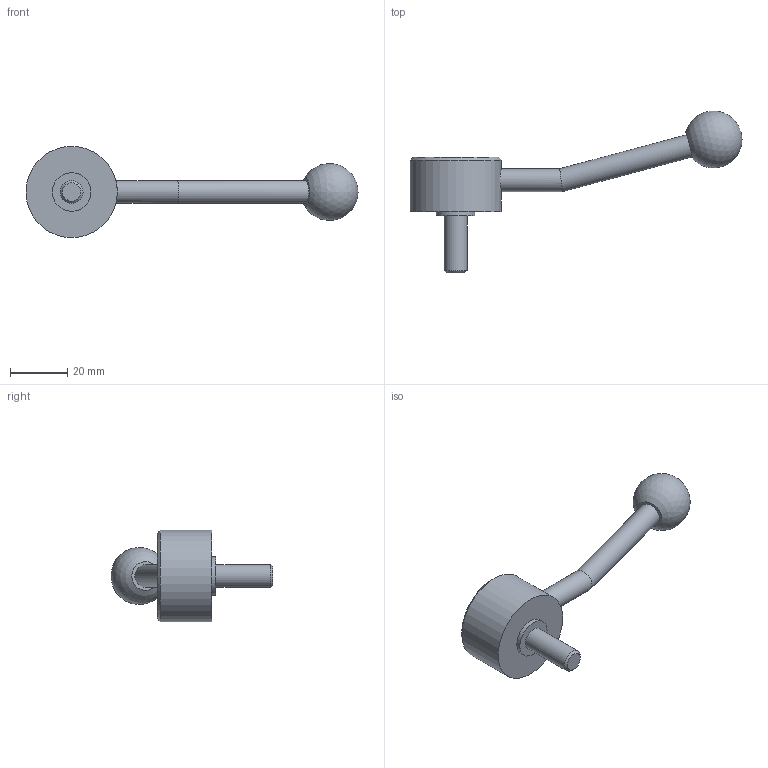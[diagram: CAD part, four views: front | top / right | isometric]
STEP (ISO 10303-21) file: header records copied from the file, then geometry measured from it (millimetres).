
FILE_DESCRIPTION( ( 'STEP AP203' ), '1' );
FILE_NAME( 'C:/Temp/Ganter_Step_05_03_2020/data/2_1/gn_125/gn_125_ms/gn_125_ms_e/Flat Adjustable Lever GN 125-32-M8-20-E.stp', '2020-03-05T11:00:53', ( 'License CC BY-ND 4.0' ), ( 'CADENAS' ), ' ', 'PARTsolutions', ' ' );
FILE_SCHEMA( ( 'CONFIG_CONTROL_DESIGN' ) );
Length unit declared in the file: millimetre
Products named in the file (1): _Flat Adjustable Lever GN 125-32-M8-20-E
Bounding box: 116.34 x 56.72 x 32 mm (x, y, z)
Volume: 23886.2 mm3; surface area: 6884.8 mm2
Topology: 1 solids, 1 shells, 15 faces, 26 edges, 17 vertices
Faces by surface type: cylinder 6, plane 6, cone 2, sphere 1
Full cylindrical faces by diameter (mm): 8 x3, 13.5 x1, 22 x1, 32 x1
Entity records: 404 total; most frequent: CARTESIAN_POINT 110, DIRECTION 58, AXIS2_PLACEMENT_3D 29, EDGE_LOOP 28, ORIENTED_EDGE 28, FACE_OUTER_BOUND 21, ADVANCED_FACE 15, VERTEX_POINT 15
